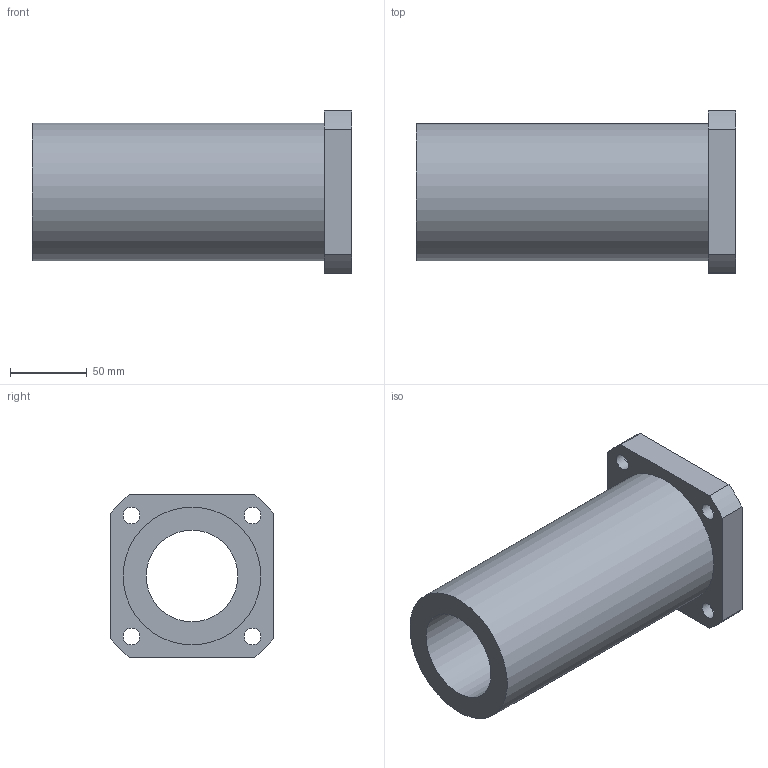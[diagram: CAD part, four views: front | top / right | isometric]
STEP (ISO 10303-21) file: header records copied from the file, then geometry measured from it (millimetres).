
FILE_DESCRIPTION(/* description */ (''),/* implementation_level */ '2;1');
FILE_NAME(/* name */ 'LMEK60LUU',/* time_stamp */ '2019-07-02T15:24:36+02:00',/* author */ ('VĂ©gh MĂˇtĂ©'),/* organization */ ('Bearing Kft'),/* preprocessor_version */ 'ST-DEVELOPER v16.7',/* originating_system */ 'DEX',/* authorisation */ $);
FILE_SCHEMA (('AUTOMOTIVE_DESIGN {1 0 10303 214 3 1 1}'));
Length unit declared in the file: millimetre
Products named in the file (1): LMEK60LUU
Bounding box: 209 x 106 x 106 mm (x, y, z)
Volume: 808920.9 mm3; surface area: 119446.7 mm2
Topology: 1 solids, 1 shells, 343 faces, 861 edges, 574 vertices
Faces by surface type: plane 267, bspline 61, cylinder 15
Full cylindrical faces by diameter (mm): 11 x4, 17 x4, 60 x1, 90 x1
Entity records: 13859 total; most frequent: CARTESIAN_POINT 6006, ORIENTED_EDGE 1694, DIRECTION 1321, EDGE_CURVE 847, LINE 695, VECTOR 695, VERTEX_POINT 574, EDGE_LOOP 421
